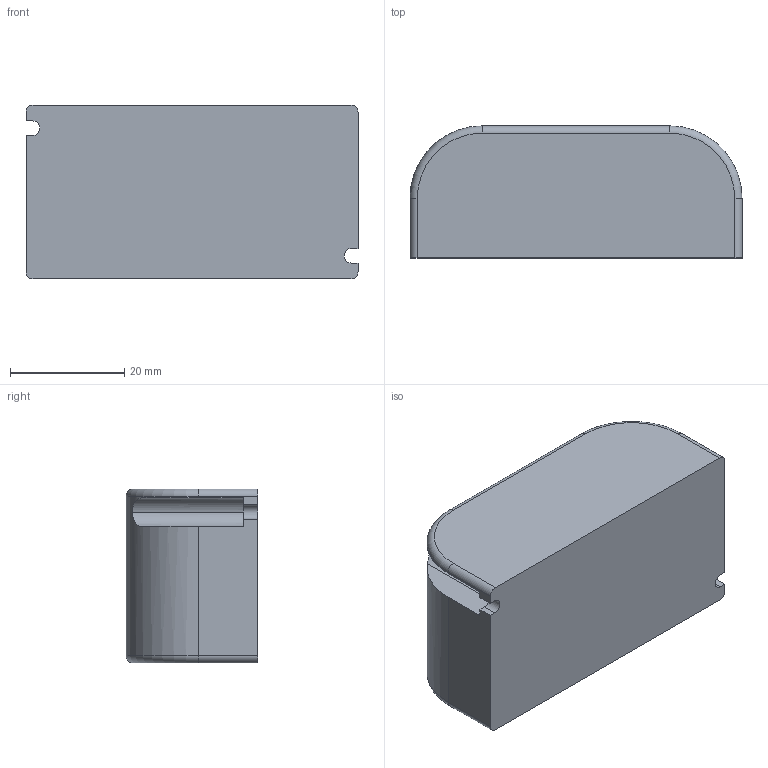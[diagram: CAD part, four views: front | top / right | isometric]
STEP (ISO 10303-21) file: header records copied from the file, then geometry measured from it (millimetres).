
FILE_DESCRIPTION (( 'STEP AP214' ), '1' );
FILE_NAME ('AC15CD350AT2S.STEP', '2025-05-14T11:47:11', ( '' ), ( '' ), 'SwSTEP 2.0', 'SolidWorks 2024', '' );
FILE_SCHEMA (( 'AUTOMOTIVE_DESIGN' ));
Length unit declared in the file: inch
Products named in the file (1): AC15CD350AT2S
Bounding box: 58.17 x 23.11 x 30.48 mm (x, y, z)
Volume: 37670.3 mm3; surface area: 7505.4 mm2
Topology: 1 solids, 1 shells, 36 faces, 94 edges, 60 vertices
Faces by surface type: plane 18, cylinder 14, torus 4
Entity records: 1185 total; most frequent: CARTESIAN_POINT 251, DIRECTION 196, ORIENTED_EDGE 188, EDGE_CURVE 94, AXIS2_PLACEMENT_3D 69, VERTEX_POINT 60, LINE 58, VECTOR 58
